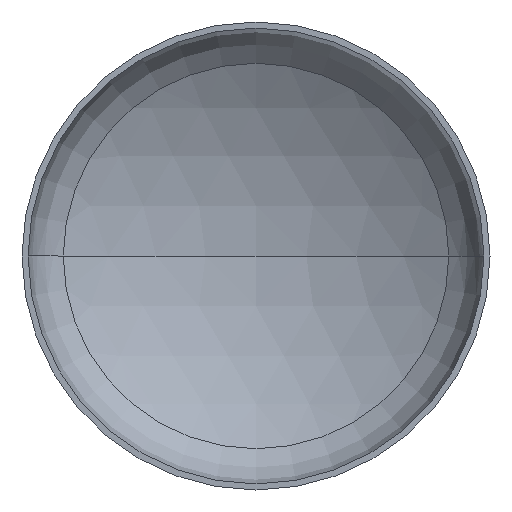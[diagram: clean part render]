
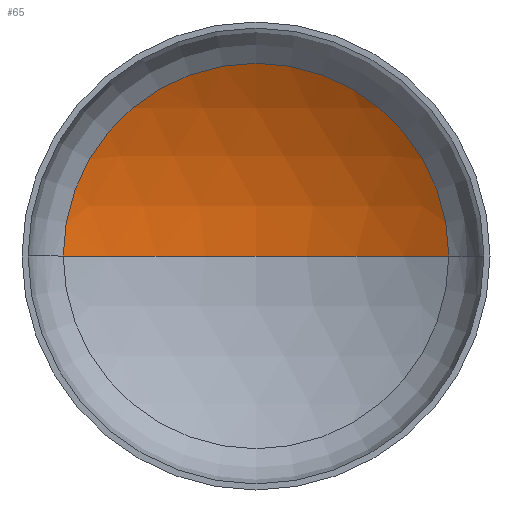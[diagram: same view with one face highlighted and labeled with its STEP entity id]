
A CAD part, front view. The second image highlights one B-rep face of the part: STEP entity #65.
In plain terms, the highlighted spherical face has radius 1600 mm.
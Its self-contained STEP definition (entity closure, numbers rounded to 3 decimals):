
#4 = CIRCLE ( 'NONE', #15, 823.566 ) ;
#5 = DIRECTION ( 'NONE',  ( 1., 0., 0. ) ) ;
#15 = AXIS2_PLACEMENT_3D ( 'NONE', #256, #297, #5 ) ;
#24 = EDGE_LOOP ( 'NONE', ( #163, #150, #78 ) ) ;
#29 = AXIS2_PLACEMENT_3D ( 'NONE', #192, #111, #115 ) ;
#31 = AXIS2_PLACEMENT_3D ( 'NONE', #168, #160, #166 ) ;
#65 = ADVANCED_FACE ( 'NONE', ( #284 ), #229, .F. ) ;
#75 = AXIS2_PLACEMENT_3D ( 'NONE', #371, #293, #255 ) ;
#78 = ORIENTED_EDGE ( 'NONE', *, *, #350, .T. ) ;
#79 = VERTEX_POINT ( 'NONE', #254 ) ;
#86 = VERTEX_POINT ( 'NONE', #239 ) ;
#111 = DIRECTION ( 'NONE',  ( 0., 0., -1. ) ) ;
#115 = DIRECTION ( 'NONE',  ( -1., 0., 0. ) ) ;
#150 = ORIENTED_EDGE ( 'NONE', *, *, #329, .T. ) ;
#160 = DIRECTION ( 'NONE',  ( 0., 0., 1. ) ) ;
#163 = ORIENTED_EDGE ( 'NONE', *, *, #336, .F. ) ;
#166 = DIRECTION ( 'NONE',  ( 1., 0., 0. ) ) ;
#168 = CARTESIAN_POINT ( 'NONE',  ( 0., -1020.986, 0. ) ) ;
#178 = CIRCLE ( 'NONE', #31, 1600. ) ;
#190 = VERTEX_POINT ( 'NONE', #298 ) ;
#192 = CARTESIAN_POINT ( 'NONE',  ( 0., -1020.986, 0. ) ) ;
#229 = SPHERICAL_SURFACE ( 'NONE', #75, 1600. ) ;
#239 = CARTESIAN_POINT ( 'NONE',  ( -823.566, 350.779, 0. ) ) ;
#254 = CARTESIAN_POINT ( 'NONE',  ( 0., 579.014, 0. ) ) ;
#255 = DIRECTION ( 'NONE',  ( -1., 0., 0. ) ) ;
#256 = CARTESIAN_POINT ( 'NONE',  ( 0., 350.779, 0. ) ) ;
#284 = FACE_OUTER_BOUND ( 'NONE', #24, .T. ) ;
#293 = DIRECTION ( 'NONE',  ( 0., 0., -1. ) ) ;
#297 = DIRECTION ( 'NONE',  ( 0., -1., 0. ) ) ;
#298 = CARTESIAN_POINT ( 'NONE',  ( 823.566, 350.779, 0. ) ) ;
#329 = EDGE_CURVE ( 'NONE', #79, #190, #368, .T. ) ;
#336 = EDGE_CURVE ( 'NONE', #79, #86, #178, .T. ) ;
#350 = EDGE_CURVE ( 'NONE', #190, #86, #4, .T. ) ;
#368 = CIRCLE ( 'NONE', #29, 1600. ) ;
#371 = CARTESIAN_POINT ( 'NONE',  ( 0., -1020.986, 0. ) ) ;
